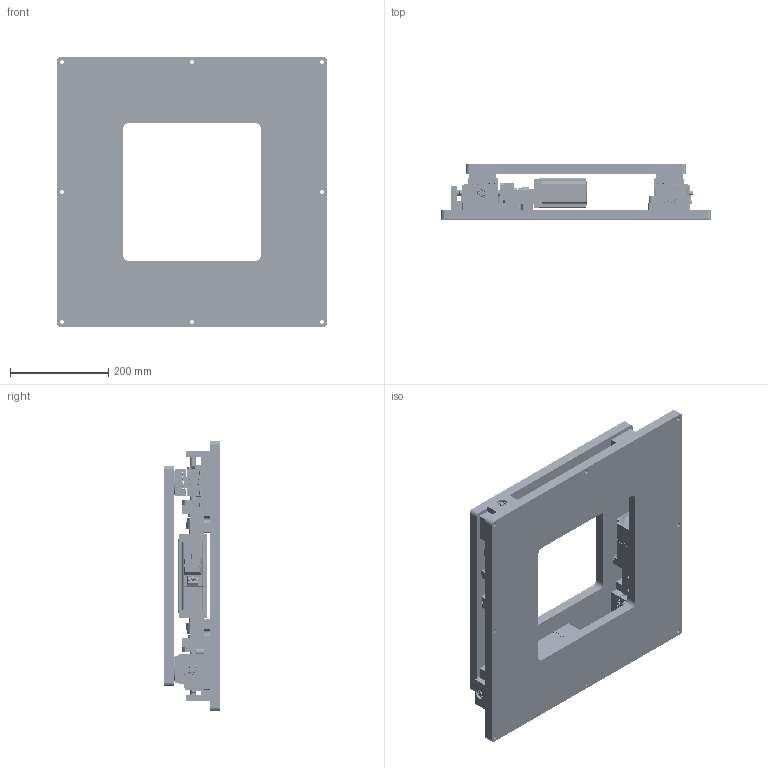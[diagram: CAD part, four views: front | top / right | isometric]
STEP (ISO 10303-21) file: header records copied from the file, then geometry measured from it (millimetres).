
FILE_DESCRIPTION (( 'STEP AP214' ), '1' );
FILE_NAME ('XXY450A-PM57.STEP', '2025-01-03T07:44:59', ( '' ), ( '' ), 'SwSTEP 2.0', 'SolidWorks 2020', '' );
FILE_SCHEMA (( 'AUTOMOTIVE_DESIGN' ));
Length unit declared in the file: millimetre
Products named in the file (1): XXY450A-PM57
Bounding box: 550 x 113 x 550 mm (x, y, z)
Surface area: 1472540.7 mm2 (no closed solid volume)
Topology: 0 solids, 45 shells, 8561 faces, 22303 edges, 13738 vertices
Faces by surface type: plane 3452, cylinder 3061, cone 1260, bspline 764, torus 24
Entity records: 377883 total; most frequent: CARTESIAN_POINT 73945, DIRECTION 44645, ORIENTED_EDGE 42811, EDGE_CURVE 21449, AXIS2_PLACEMENT_3D 16341, VERTEX_POINT 13735, VECTOR 11963, LINE 11963
